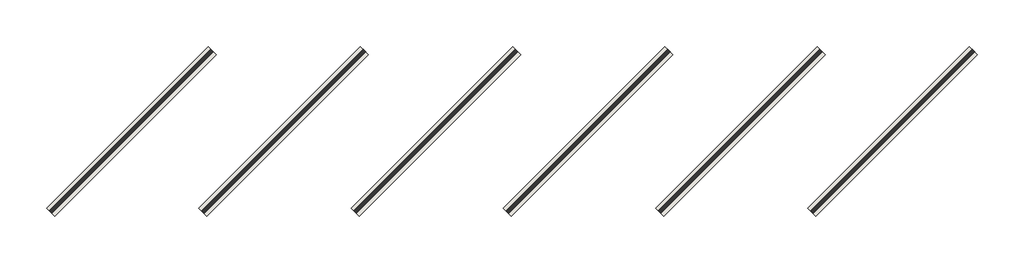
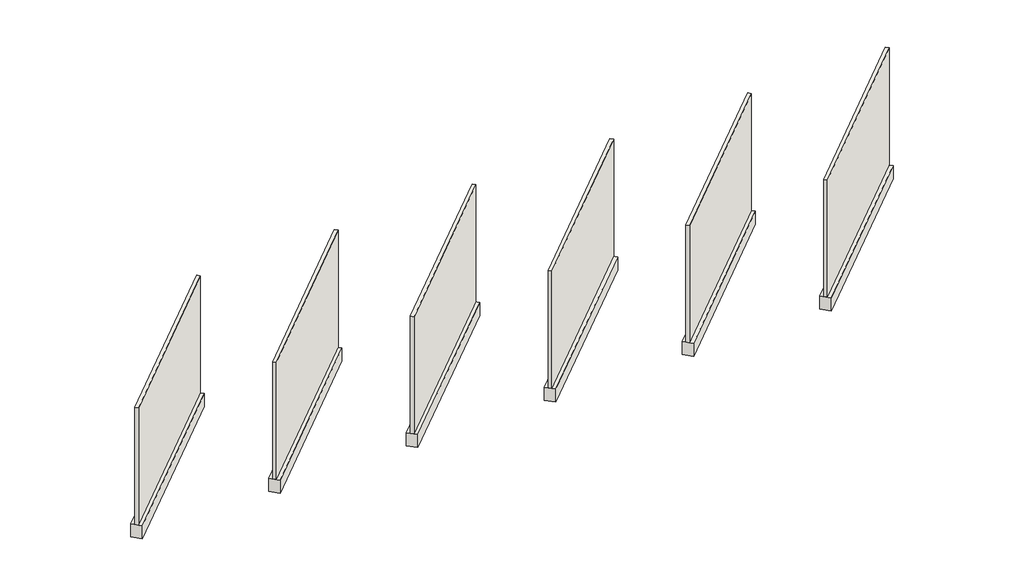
# One storey: 12 walls.
"""IFC4 building model written with IfcOpenShell, lengths in millimetres."""

from ifc_helpers import new_model, si_unit, frame, origin, origin_with_axes, place, context, project, spatial, polyline, outline, extrude, element, save

model = new_model("IFC4")

# Units and contexts
model_context = context("Model", 3, world=origin())
ifc_project = project(units=[si_unit("LENGTHUNIT", "METRE", prefix="MILLI")], contexts=[model_context])

# Site, building, storey
site = spatial("IfcSite", under=ifc_project)
building = spatial("IfcBuilding", under=site)
storey = spatial("IfcBuildingStorey", under=building, Name="Country Ledge Pioneer Stone", Elevation=0.0)

# Walls
placement = place(None, origin())
element("IfcWall", 1, ObjectType="Barley_Country Ledge", at=placement, inside=storey, context=model_context, shape_type="SweptSolid", body=[
    extrude(outline(polyline([(-17838.9068952, 7411.09097), (-21071.7990988, 4178.1987664), (-21125.6806355, 4232.0803031), (-17892.788432, 7464.9725067), (-17838.9068952, 7411.09097)])), frame((0.0, 0.0, 304.8), z_axis=(0.0, 0.0, 1.0), x_axis=(1.0, 0.0, 0.0)), (0.0, 0.0, 1.0), 2743.2),
])
element("IfcWall", 2, ObjectType="Bucks Ridge_Country Ledge", at=placement, inside=storey, context=model_context, shape_type="SweptSolid", body=[
    extrude(outline(polyline([(-11742.9068952, 7411.09097), (-14975.7990988, 4178.1987664), (-15029.6806355, 4232.0803031), (-11796.788432, 7464.9725067), (-11742.9068952, 7411.09097)])), frame((0.0, 0.0, 304.8), z_axis=(0.0, 0.0, 1.0), x_axis=(1.0, 0.0, 0.0)), (0.0, 0.0, 1.0), 2743.2),
])
element("IfcWall", 3, ObjectType="Blue Ridge_Country Ledge", at=placement, inside=storey, context=model_context, shape_type="SweptSolid", body=[
    extrude(outline(polyline([(-14790.9068952, 7411.09097), (-18023.7990988, 4178.1987664), (-18077.6806355, 4232.0803031), (-14844.788432, 7464.9725067), (-14790.9068952, 7411.09097)])), frame((0.0, 0.0, 304.8), z_axis=(0.0, 0.0, 1.0), x_axis=(1.0, 0.0, 0.0)), (0.0, 0.0, 1.0), 2743.2),
])
element("IfcWall", 4, ObjectType="Canyon Creek_Country Ledge", at=placement, inside=storey, context=model_context, shape_type="SweptSolid", body=[
    extrude(outline(polyline([(-8694.9068952, 7411.09097), (-11927.7990988, 4178.1987664), (-11981.6806355, 4232.0803031), (-8748.788432, 7464.9725067), (-8694.9068952, 7411.09097)])), frame((0.0, 0.0, 304.8), z_axis=(0.0, 0.0, 1.0), x_axis=(1.0, 0.0, 0.0)), (0.0, 0.0, 1.0), 2743.2),
])
element("IfcWall", 5, ObjectType="Dusk_Country Ledge", at=placement, inside=storey, context=model_context, shape_type="SweptSolid", body=[
    extrude(outline(polyline([(-5646.9068952, 7411.09097), (-8879.7990988, 4178.1987664), (-8933.6806355, 4232.0803031), (-5700.788432, 7464.9725067), (-5646.9068952, 7411.09097)])), frame((0.0, 0.0, 304.8), z_axis=(0.0, 0.0, 1.0), x_axis=(1.0, 0.0, 0.0)), (0.0, 0.0, 1.0), 2743.2),
])
element("IfcWall", 6, ObjectType="Echo Valley_Country Ledge", at=placement, inside=storey, context=model_context, shape_type="SweptSolid", body=[
    extrude(outline(polyline([(-2598.9068952, 7411.09097), (-5831.7990988, 4178.1987664), (-5885.6806355, 4232.0803031), (-2652.788432, 7464.9725067), (-2598.9068952, 7411.09097)])), frame((0.0, 0.0, 304.8), z_axis=(0.0, 0.0, 1.0), x_axis=(1.0, 0.0, 0.0)), (0.0, 0.0, 1.0), 2743.2),
])
element("IfcWall", 7, ObjectType="Generic 9\"", at=placement, inside=storey, context=model_context, shape_type="SweptSolid", body=[
    extrude(outline(polyline([(-17785.0253585, 7357.2094332), (-21017.9175621, 4124.3172297), (-21179.5621723, 4285.9618398), (-17946.6699687, 7518.8540434), (-17785.0253585, 7357.2094332)])), origin_with_axes(), (0.0, 0.0, 1.0), 304.8),
])
element("IfcWall", 8, ObjectType="Generic 9\"", at=placement, inside=storey, context=model_context, shape_type="SweptSolid", body=[
    extrude(outline(polyline([(-14737.0253585, 7357.2094332), (-17969.9175621, 4124.3172297), (-18131.5621723, 4285.9618398), (-14898.6699687, 7518.8540434), (-14737.0253585, 7357.2094332)])), origin_with_axes(), (0.0, 0.0, 1.0), 304.8),
])
element("IfcWall", 9, ObjectType="Generic 9\"", at=placement, inside=storey, context=model_context, shape_type="SweptSolid", body=[
    extrude(outline(polyline([(-11689.0253585, 7357.2094332), (-14921.9175621, 4124.3172297), (-15083.5621723, 4285.9618398), (-11850.6699687, 7518.8540434), (-11689.0253585, 7357.2094332)])), origin_with_axes(), (0.0, 0.0, 1.0), 304.8),
])
element("IfcWall", 10, ObjectType="Generic 9\"", at=placement, inside=storey, context=model_context, shape_type="SweptSolid", body=[
    extrude(outline(polyline([(-8641.0253585, 7357.2094332), (-11873.9175621, 4124.3172297), (-12035.5621723, 4285.9618398), (-8802.6699687, 7518.8540434), (-8641.0253585, 7357.2094332)])), origin_with_axes(), (0.0, 0.0, 1.0), 304.8),
])
element("IfcWall", 11, ObjectType="Generic 9\"", at=placement, inside=storey, context=model_context, shape_type="SweptSolid", body=[
    extrude(outline(polyline([(-5593.0253585, 7357.2094332), (-8825.9175621, 4124.3172297), (-8987.5621723, 4285.9618398), (-5754.6699687, 7518.8540434), (-5593.0253585, 7357.2094332)])), origin_with_axes(), (0.0, 0.0, 1.0), 304.8),
])
element("IfcWall", 12, ObjectType="Generic 9\"", at=placement, inside=storey, context=model_context, shape_type="SweptSolid", body=[
    extrude(outline(polyline([(-2545.0253585, 7357.2094332), (-5777.9175621, 4124.3172297), (-5939.5621723, 4285.9618398), (-2706.6699687, 7518.8540434), (-2545.0253585, 7357.2094332)])), origin_with_axes(), (0.0, 0.0, 1.0), 304.8),
])

save(model, "model.ifc")
